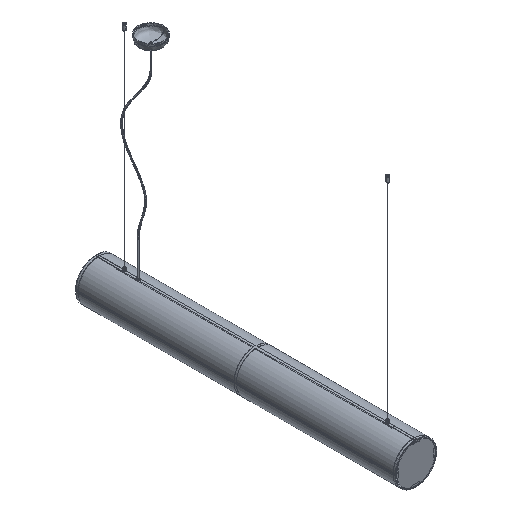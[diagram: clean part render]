
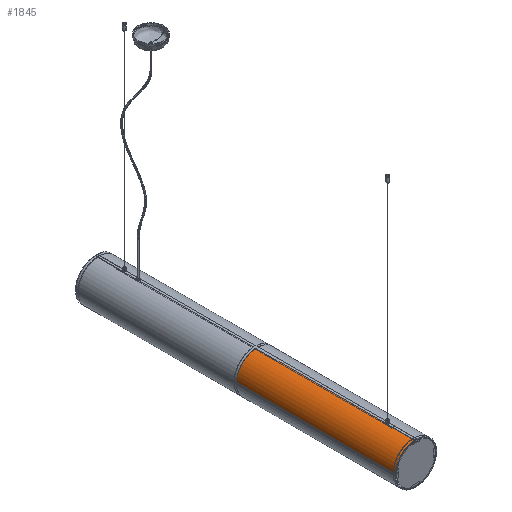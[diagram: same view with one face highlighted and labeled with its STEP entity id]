
A CAD part, isometric view. The second image highlights one B-rep face of the part: STEP entity #1845.
In plain terms, the highlighted cylindrical face has radius 90.8 mm (diameter 181.6 mm), a partial arc.
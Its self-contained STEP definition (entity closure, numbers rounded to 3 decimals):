
#1845=ADVANCED_FACE('',(#2893),#17137,.T.);
#2893=FACE_OUTER_BOUND('',#4024,.T.);
#4024=EDGE_LOOP('',(#8901,#8902,#8903,#8904));
#8901=ORIENTED_EDGE('',*,*,#11922,.F.);
#8902=ORIENTED_EDGE('',*,*,#11924,.T.);
#8903=ORIENTED_EDGE('',*,*,#11923,.F.);
#8904=ORIENTED_EDGE('',*,*,#11925,.F.);
#11922=EDGE_CURVE('',#16557,#16558,#14777,.T.);
#11923=EDGE_CURVE('',#16560,#16559,#14778,.T.);
#11924=EDGE_CURVE('',#16557,#16559,#13236,.T.);
#11925=EDGE_CURVE('',#16558,#16560,#13237,.T.);
#13236=(
BOUNDED_CURVE()
B_SPLINE_CURVE(2,(#41473,#41474,#41475),.UNSPECIFIED.,.F.,.F.)
B_SPLINE_CURVE_WITH_KNOTS((3,3),(0.,132.623),.UNSPECIFIED.)
CURVE()
GEOMETRIC_REPRESENTATION_ITEM()
RATIONAL_B_SPLINE_CURVE((1.,0.745,1.))
REPRESENTATION_ITEM('')
);
#13237=(
BOUNDED_CURVE()
B_SPLINE_CURVE(2,(#41476,#41477,#41478),.UNSPECIFIED.,.F.,.F.)
B_SPLINE_CURVE_WITH_KNOTS((3,3),(-132.623,0.),.UNSPECIFIED.)
CURVE()
GEOMETRIC_REPRESENTATION_ITEM()
RATIONAL_B_SPLINE_CURVE((1.,0.745,1.))
REPRESENTATION_ITEM('')
);
#14777=B_SPLINE_CURVE_WITH_KNOTS('',1,(#41469,#41470),.UNSPECIFIED.,.F.,
 .F.,(2,2),(0.,695.5),.UNSPECIFIED.);
#14778=B_SPLINE_CURVE_WITH_KNOTS('',1,(#41471,#41472),.UNSPECIFIED.,.F.,
 .F.,(2,2),(0.,695.5),.UNSPECIFIED.);
#16557=VERTEX_POINT('',#41465);
#16558=VERTEX_POINT('',#41466);
#16559=VERTEX_POINT('',#41467);
#16560=VERTEX_POINT('',#41468);
#17137=CYLINDRICAL_SURFACE('',#18454,90.8);
#18454=AXIS2_PLACEMENT_3D('',#41464,#19331,$);
#19331=DIRECTION('',(0.,1.,0.));
#41464=CARTESIAN_POINT('',(0.,-350.887,537.748));
#41465=CARTESIAN_POINT('',(-5.,-3.137,628.41));
#41466=CARTESIAN_POINT('',(-5.,-698.637,628.41));
#41467=CARTESIAN_POINT('',(-90.662,-3.137,542.748));
#41468=CARTESIAN_POINT('',(-90.662,-698.637,542.748));
#41469=CARTESIAN_POINT('',(-5.,-3.137,628.41));
#41470=CARTESIAN_POINT('',(-5.,-698.637,628.41));
#41471=CARTESIAN_POINT('',(-90.662,-698.637,542.748));
#41472=CARTESIAN_POINT('',(-90.662,-3.137,542.748));
#41473=CARTESIAN_POINT('',(-5.,-3.137,628.41));
#41474=CARTESIAN_POINT('',(-86.185,-3.137,623.933));
#41475=CARTESIAN_POINT('',(-90.662,-3.137,542.748));
#41476=CARTESIAN_POINT('',(-5.,-698.637,628.41));
#41477=CARTESIAN_POINT('',(-86.185,-698.637,623.933));
#41478=CARTESIAN_POINT('',(-90.662,-698.637,542.748));
